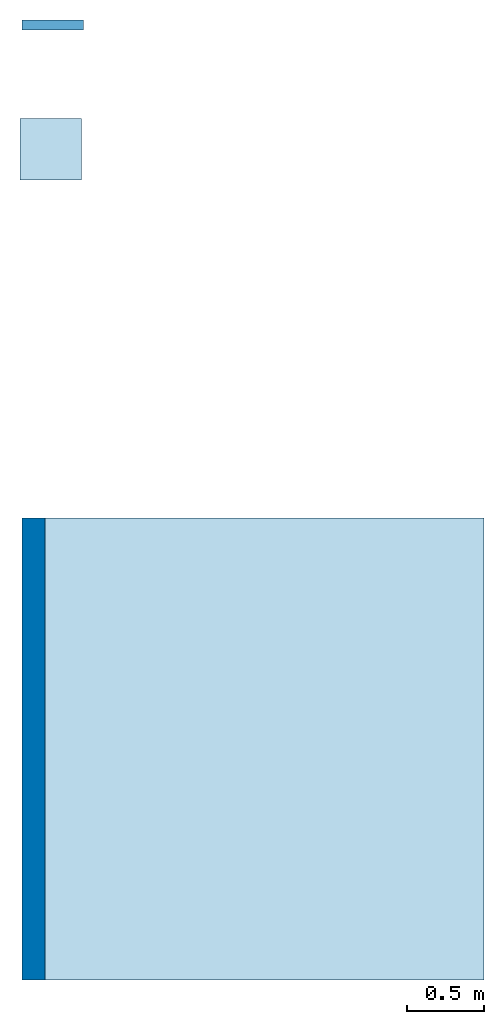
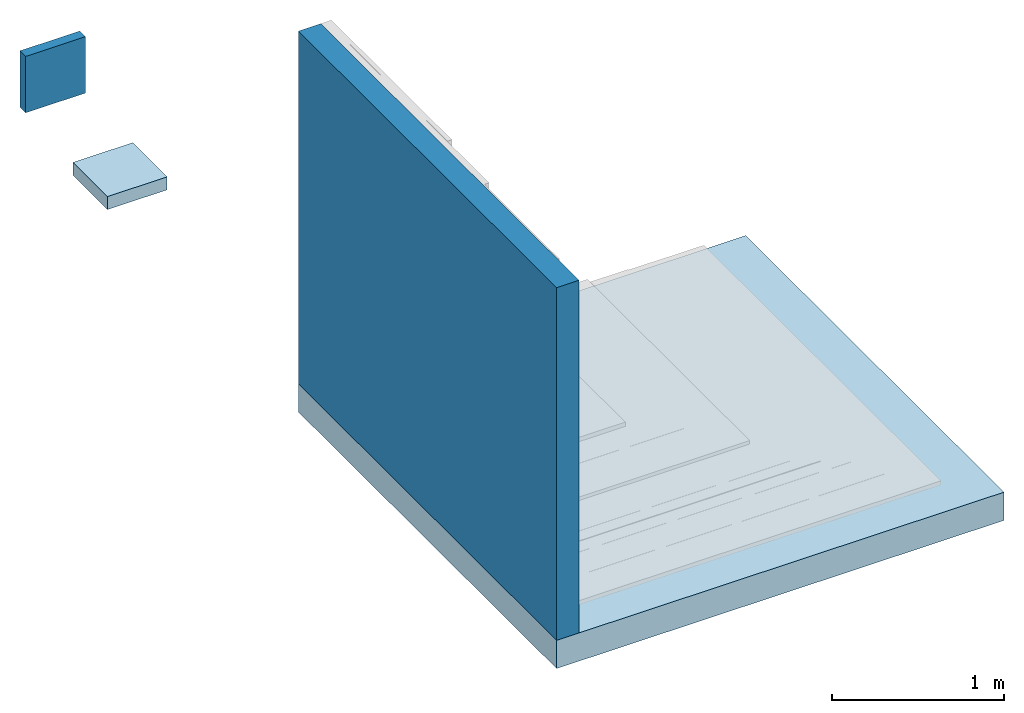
# One storey, part 1 of 2: 2 slabs, 2 walls.
"""IFC2X3 building model written with IfcOpenShell, lengths in metres."""

from ifc_helpers import new_model, entity, si_unit, converted_unit, derived_unit, direction, frame, frame_2d, origin, origin_2d_with_axis, place, context, subcontext, project, spatial, rectangle, extrude, material, layer, layer_set, layer_usage, type_object, element, save


model = new_model("IFC2X3")

# Units and contexts
model_context = context("Model", 3, precision=1e-05, world=origin(), true_north=direction((6.123031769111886e-17, 1.0)))
body_context = subcontext(model_context, "Body", "Model", "MODEL_VIEW")
ifc_project = project(units=[si_unit("LENGTHUNIT", "METRE"), si_unit("AREAUNIT", "SQUARE_METRE"), si_unit("VOLUMEUNIT", "CUBIC_METRE"), converted_unit("PLANEANGLEUNIT", "DEGREE", entity("IfcRatioMeasure", 0.017453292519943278), si_unit("PLANEANGLEUNIT", "RADIAN"), dimensions=[0, 0, 0, 0, 0, 0, 0]), si_unit("MASSUNIT", "GRAM", prefix="KILO"), derived_unit("MASSDENSITYUNIT", [(si_unit("MASSUNIT", "GRAM", prefix="KILO"), 1), (si_unit("LENGTHUNIT", "METRE"), -3)]), derived_unit("IONCONCENTRATIONUNIT", [(si_unit("MASSUNIT", "GRAM", prefix="KILO"), 1), (si_unit("LENGTHUNIT", "METRE"), -3)]), derived_unit("MOMENTOFINERTIAUNIT", [(si_unit("LENGTHUNIT", "METRE"), 4)]), si_unit("TIMEUNIT", "SECOND"), si_unit("FREQUENCYUNIT", "HERTZ"), si_unit("THERMODYNAMICTEMPERATUREUNIT", "DEGREE_CELSIUS"), derived_unit("THERMALTRANSMITTANCEUNIT", [(si_unit("MASSUNIT", "GRAM", prefix="KILO"), 1), (si_unit("THERMODYNAMICTEMPERATUREUNIT", "KELVIN"), -1), (si_unit("TIMEUNIT", "SECOND"), -3)]), derived_unit("THERMALCONDUCTANCEUNIT", [(si_unit("MASSUNIT", "GRAM", prefix="KILO"), 1), (si_unit("THERMODYNAMICTEMPERATUREUNIT", "KELVIN"), -1), (si_unit("TIMEUNIT", "SECOND"), -3), (si_unit("LENGTHUNIT", "METRE"), 1)]), derived_unit("VOLUMETRICFLOWRATEUNIT", [(si_unit("LENGTHUNIT", "METRE"), 3), (si_unit("TIMEUNIT", "SECOND"), -1)]), derived_unit("MASSFLOWRATEUNIT", [(si_unit("MASSUNIT", "GRAM", prefix="KILO"), 1), (si_unit("TIMEUNIT", "SECOND"), -1)]), derived_unit("ROTATIONALFREQUENCYUNIT", [(si_unit("TIMEUNIT", "SECOND"), -1)]), si_unit("ELECTRICCURRENTUNIT", "AMPERE"), si_unit("ELECTRICVOLTAGEUNIT", "VOLT"), si_unit("POWERUNIT", "WATT"), si_unit("FORCEUNIT", "NEWTON", prefix="KILO"), si_unit("ILLUMINANCEUNIT", "LUX"), si_unit("LUMINOUSFLUXUNIT", "LUMEN"), si_unit("LUMINOUSINTENSITYUNIT", "CANDELA"), derived_unit("USERDEFINED", [(si_unit("MASSUNIT", "GRAM", prefix="KILO"), -1), (si_unit("LENGTHUNIT", "METRE"), -2), (si_unit("TIMEUNIT", "SECOND"), 3), (si_unit("LUMINOUSFLUXUNIT", "LUMEN"), 1)]), derived_unit("USERDEFINED", [(si_unit("MASSUNIT", "GRAM", prefix="KILO"), 1), (si_unit("TIMEUNIT", "SECOND"), -3), (si_unit("LENGTHUNIT", "METRE"), 3), (si_unit("ELECTRICCURRENTUNIT", "AMPERE"), -2)]), derived_unit("SOUNDPOWERUNIT", [(si_unit("MASSUNIT", "GRAM", prefix="KILO"), 1), (si_unit("TIMEUNIT", "SECOND"), -3), (si_unit("LENGTHUNIT", "METRE"), 2)]), derived_unit("SOUNDPRESSUREUNIT", [(si_unit("MASSUNIT", "GRAM", prefix="KILO"), 1), (si_unit("LENGTHUNIT", "METRE"), -1), (si_unit("TIMEUNIT", "SECOND"), -2)]), derived_unit("LINEARVELOCITYUNIT", [(si_unit("LENGTHUNIT", "METRE"), 1), (si_unit("TIMEUNIT", "SECOND"), -1)]), si_unit("PRESSUREUNIT", "PASCAL"), derived_unit("USERDEFINED", [(si_unit("MASSUNIT", "GRAM", prefix="KILO"), 1), (si_unit("LENGTHUNIT", "METRE"), -2), (si_unit("TIMEUNIT", "SECOND"), -2)]), derived_unit("LINEARFORCEUNIT", [(si_unit("MASSUNIT", "GRAM", prefix="KILO"), 1), (si_unit("TIMEUNIT", "SECOND"), -2)]), derived_unit("PLANARFORCEUNIT", [(si_unit("MASSUNIT", "GRAM", prefix="KILO"), 1), (si_unit("LENGTHUNIT", "METRE"), -1), (si_unit("TIMEUNIT", "SECOND"), -2)]), derived_unit("SPECIFICHEATCAPACITYUNIT", [(si_unit("THERMODYNAMICTEMPERATUREUNIT", "KELVIN"), -1), (si_unit("LENGTHUNIT", "METRE"), 2), (si_unit("TIMEUNIT", "SECOND"), -2)]), derived_unit("HEATINGVALUEUNIT", [(si_unit("LENGTHUNIT", "METRE"), 2), (si_unit("TIMEUNIT", "SECOND"), -2)]), derived_unit("VAPORPERMEABILITYUNIT", [(si_unit("LENGTHUNIT", "METRE"), -1), (si_unit("TIMEUNIT", "SECOND"), 1)]), derived_unit("DYNAMICVISCOSITYUNIT", [(si_unit("MASSUNIT", "GRAM", prefix="KILO"), 1), (si_unit("TIMEUNIT", "SECOND"), -1), (si_unit("LENGTHUNIT", "METRE"), -1)]), derived_unit("THERMALEXPANSIONCOEFFICIENTUNIT", [(si_unit("THERMODYNAMICTEMPERATUREUNIT", "KELVIN"), -1)]), derived_unit("MODULUSOFELASTICITYUNIT", [(si_unit("MASSUNIT", "GRAM", prefix="KILO"), 1), (si_unit("LENGTHUNIT", "METRE"), -1), (si_unit("TIMEUNIT", "SECOND"), -2)]), derived_unit("ISOTHERMALMOISTURECAPACITYUNIT", [(si_unit("LENGTHUNIT", "METRE"), 3), (si_unit("MASSUNIT", "GRAM", prefix="KILO"), -1)]), derived_unit("MOISTUREDIFFUSIVITYUNIT", [(si_unit("TIMEUNIT", "SECOND"), -1), (si_unit("LENGTHUNIT", "METRE"), 2)])], contexts=[model_context])

# Site, building, storey
site_placement = place(None, origin())
site = spatial("IfcSite", under=ifc_project, at=site_placement, Name="Default", CompositionType="ELEMENT")
building_placement = place(site_placement, origin())
building = spatial("IfcBuilding", under=site, at=building_placement, CompositionType="ELEMENT")
storey_placement = place(building_placement, frame((0.0, 0.0, -0.0025237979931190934)))
storey = spatial("IfcBuildingStorey", under=building, at=storey_placement, Name="ARQ Térreo", CompositionType="ELEMENT", Elevation=-0.0025237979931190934)

# Slabs
ifc_material_1 = material(Name="#concreto")
ifc_layer_1 = layer(ifc_material_1, 0.2)
ifc_layer_set_1 = layer_set([ifc_layer_1], Name="Piso:Piso:LAJE CONCRETO")
ifc_layer_usage_1 = layer_usage(ifc_layer_set_1, "AXIS3", "POSITIVE", 0.0)
slab_type_1 = type_object("IfcSlabType", Name="Piso:Piso:LAJE CONCRETO", PredefinedType="FLOOR", material=ifc_layer_set_1)
slab_1_placement = place(storey_placement, origin())
element("IfcSlab", 1, at=slab_1_placement, inside=storey, type_object=slab_type_1, material=ifc_layer_usage_1, Name="Piso:Piso:LAJE CONCRETO", ObjectType="Piso:Piso:LAJE CONCRETO", PredefinedType="FLOOR", context=body_context, shape_type="SweptSolid", body=[
    extrude(rectangle(XDim=3.0000000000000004, YDim=3.0000000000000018, at=origin_2d_with_axis()), frame((0.9980295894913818, -1.354129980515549, 0.0), z_axis=(0.0, 0.0, -1.0), x_axis=(0.0, 1.0, 0.0)), (0.0, 0.0, 1.0), 0.2),
])
ifc_material_2 = material(Name="#proteção mecânica")
ifc_layer_2 = layer(ifc_material_2, 0.03)
ifc_material_3 = material(Name="#XPS")
ifc_layer_3 = layer(ifc_material_3, 0.025)
ifc_material_4 = material(Name="#nbr")
ifc_layer_4 = layer(ifc_material_4, 0.0009999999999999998)
ifc_material_5 = material(Name="# Torodin 4mm - TIPO III - Classe A")
ifc_layer_5 = layer(ifc_material_5, 0.003999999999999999)
ifc_layer_6 = layer(ifc_material_4, 0.0009999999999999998)
ifc_material_6 = material(Name="#Primer Adeflex")
ifc_layer_7 = layer(ifc_material_6, 0.0009999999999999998)
ifc_material_7 = material(Name="#argamassa")
ifc_layer_8 = layer(ifc_material_7, 0.03)
ifc_layer_set_2 = layer_set([ifc_layer_2, ifc_layer_3, ifc_layer_4, ifc_layer_5, ifc_layer_6, ifc_layer_7, ifc_layer_8], Name="Piso:IMPH_T4AA")
ifc_layer_usage_2 = layer_usage(ifc_layer_set_2, "AXIS3", "POSITIVE", 0.0)
slab_type_2 = type_object("IfcSlabType", Name="Piso:IMPH_T4AA", PredefinedType="FLOOR", material=ifc_layer_set_2)
slab_2_placement = place(storey_placement, origin())
element("IfcSlab", 2, at=slab_2_placement, inside=storey, type_object=slab_type_2, material=ifc_layer_usage_2, Name="Piso:IMPH_T4AA", ObjectType="Piso:IMPH_T4AA", PredefinedType="FLOOR", context=body_context, shape_type="SweptSolid", body=[
    extrude(rectangle(XDim=0.4, YDim=0.4, at=origin_2d_with_axis()), frame((-0.3145300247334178, 2.540929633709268, 0.0), z_axis=(0.0, 0.0, -1.0), x_axis=(0.0, 1.0, 0.0)), (0.0, 0.0, 1.0), 0.092),
])

# Walls
ifc_layer_9 = layer(ifc_material_1, 0.14999999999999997)
ifc_layer_set_3 = layer_set([ifc_layer_9], Name="Parede básica:Parede básica:Parede Concreto")
ifc_layer_usage_3 = layer_usage(ifc_layer_set_3, "AXIS2", "NEGATIVE", 0.07499999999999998)
wall_type_1 = type_object("IfcWallType", Name="Parede básica:Parede básica:Parede Concreto", PredefinedType="STANDARD", material=ifc_layer_set_3)
wall_1_placement = place(storey_placement, frame((-0.4269704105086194, 0.14587001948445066, 0.0), z_axis=(0.0, 0.0, 1.0), x_axis=(0.0, -1.0, 0.0)))
element("IfcWallStandardCase", 3, at=wall_1_placement, inside=storey, type_object=wall_type_1, material=ifc_layer_usage_3, Name="Parede básica:Parede Concreto", ObjectType="Parede básica:Parede Concreto", context=body_context, shape_type="SweptSolid", body=[
    extrude(rectangle(XDim=2.9999999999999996, YDim=0.15000000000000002, at=frame_2d((1.4999999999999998, 0.0), x_axis=(-1.0, 0.0))), origin(), (0.0, 0.0, 1.0), 2.4999999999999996),
])
ifc_layer_10 = layer(ifc_material_2, 0.03)
ifc_layer_11 = layer(ifc_material_3, 0.025)
ifc_material_8 = material(Name="#Vitkote Elastic")
ifc_layer_12 = layer(ifc_material_8, 0.0009999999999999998)
ifc_layer_13 = layer(ifc_material_7, 0.01)
ifc_layer_set_4 = layer_set([ifc_layer_10, ifc_layer_11, ifc_layer_12, ifc_layer_13], Name="Parede básica:IMPV_VITKOTE ELASTIC")
ifc_layer_usage_4 = layer_usage(ifc_layer_set_4, "AXIS2", "POSITIVE", -0.033)
wall_type_2 = type_object("IfcWallType", Name="Parede básica:IMPV_VITKOTE ELASTIC", PredefinedType="STANDARD", material=ifc_layer_set_4)
wall_2_placement = place(storey_placement, frame((-0.5019704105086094, 3.345870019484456, 0.0)))
element("IfcWallStandardCase", 4, at=wall_2_placement, inside=storey, type_object=wall_type_2, material=ifc_layer_usage_4, Name="Parede básica:IMPV_T4PP", ObjectType="Parede básica:IMPV_T4PP", context=body_context, shape_type="SweptSolid", body=[
    extrude(rectangle(XDim=0.4000000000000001, YDim=0.06600000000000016, at=frame_2d((0.20000000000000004, 1.249000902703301e-16), x_axis=(-1.0, 0.0))), origin(), (0.0, 0.0, 1.0), 0.4),
])

save(model, "model.ifc")
